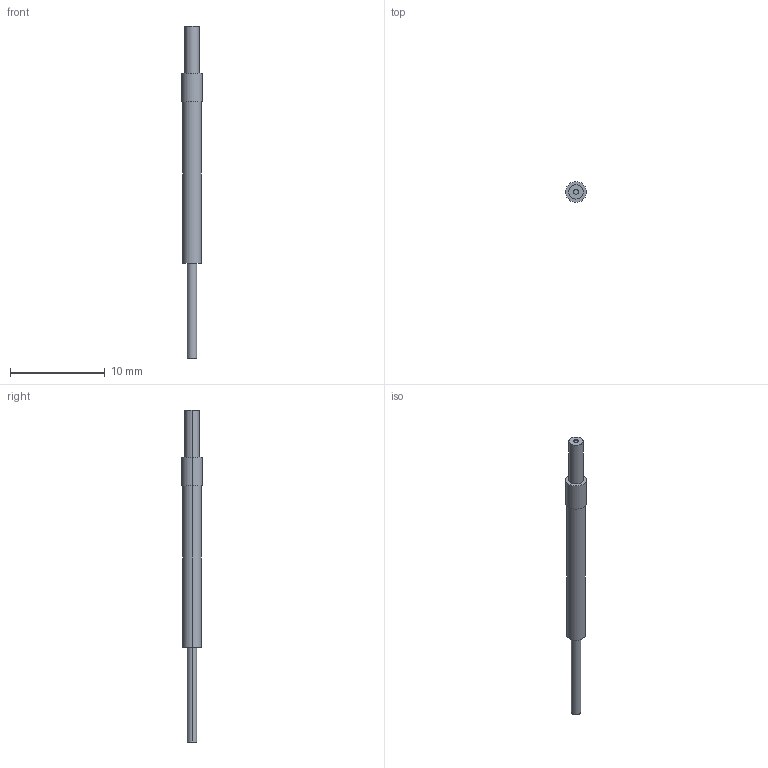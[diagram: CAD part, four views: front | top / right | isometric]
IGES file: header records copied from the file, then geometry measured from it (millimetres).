
Start section: SolidWorks IGES FILE using analytic representation for surfaces
Global section: file name: \\intra-srv04\開発データ\CAD_Data\CAD委員会\3D電子ｶﾀﾛｸﾞ\製品カタログ（新）\0_IGES\FT-SNFM2.IGS,41HSolidWorks 2004; native system: by SolidWorks Corporation; preprocessor: Version 5.3; author: mf1158; date: 050908.112545; units: millimetre
Bounding box: 2.2 x 2.2 x 35 mm (x, y, z)
Volume: 81.5 mm3; surface area: 190.3 mm2
Topology: 1 solids, 1 shells, 16 faces, 30 edges, 20 vertices
Faces by surface type: revolution 10, plane 6
